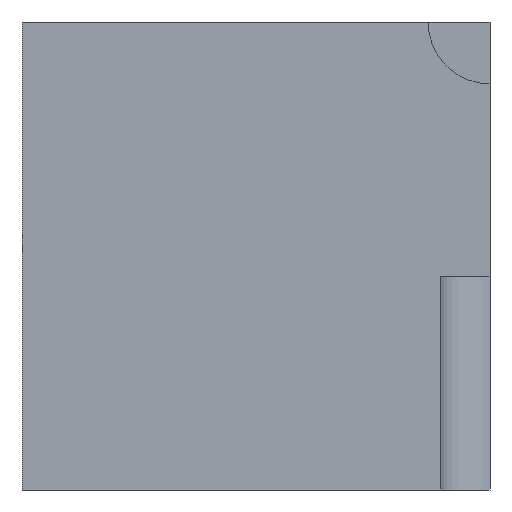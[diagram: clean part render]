
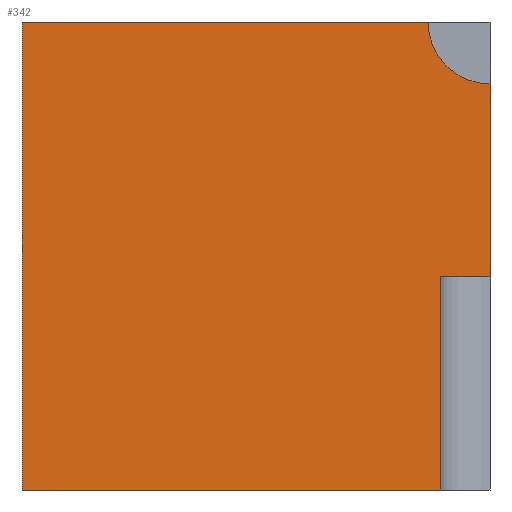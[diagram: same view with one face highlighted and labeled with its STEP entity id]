
A CAD part, left-side view. The second image highlights one B-rep face of the part: STEP entity #342.
In plain terms, the highlighted planar face has unit normal (-1, 0, 0).
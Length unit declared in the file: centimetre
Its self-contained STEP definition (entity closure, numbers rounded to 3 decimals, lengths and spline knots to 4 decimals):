
#18 = VERTEX_POINT ( 'NONE', #673 ) ;
#27 = VERTEX_POINT ( 'NONE', #857 ) ;
#30 = DIRECTION ( 'NONE',  ( 0., 0., 1. ) ) ;
#100 = ORIENTED_EDGE ( 'NONE', *, *, #1108, .T. ) ;
#112 = AXIS2_PLACEMENT_3D ( 'NONE', #860, #1046, #345 ) ;
#141 = CARTESIAN_POINT ( 'NONE',  ( 0., 105.7068, 455.5776 ) ) ;
#173 = DIRECTION ( 'NONE',  ( 0., -1., 0. ) ) ;
#261 = CARTESIAN_POINT ( 'NONE',  ( 0., 1000., 1000. ) ) ;
#287 = LINE ( 'NONE', #789, #466 ) ;
#288 = ORIENTED_EDGE ( 'NONE', *, *, #898, .F. ) ;
#295 = EDGE_CURVE ( 'NONE', #520, #453, #380, .T. ) ;
#296 = EDGE_LOOP ( 'NONE', ( #288, #957, #1223, #100, #407, #516, #439 ) ) ;
#306 = EDGE_CURVE ( 'NONE', #27, #1022, #554, .T. ) ;
#324 = CARTESIAN_POINT ( 'NONE',  ( 0., 1000., 0. ) ) ;
#342 = ADVANCED_FACE ( 'NONE', ( #776 ), #1179, .F. ) ;
#345 = DIRECTION ( 'NONE',  ( 0., 0., 1. ) ) ;
#365 = VECTOR ( 'NONE', #567, 100. ) ;
#370 = EDGE_CURVE ( 'NONE', #18, #1074, #587, .T. ) ;
#380 = LINE ( 'NONE', #787, #1093 ) ;
#385 = DIRECTION ( 'NONE',  ( 0., 0., -1. ) ) ;
#407 = ORIENTED_EDGE ( 'NONE', *, *, #295, .T. ) ;
#439 = ORIENTED_EDGE ( 'NONE', *, *, #306, .F. ) ;
#453 = VERTEX_POINT ( 'NONE', #1321 ) ;
#466 = VECTOR ( 'NONE', #491, 100. ) ;
#491 = DIRECTION ( 'NONE',  ( 0., 0., -1. ) ) ;
#516 = ORIENTED_EDGE ( 'NONE', *, *, #1293, .T. ) ;
#520 = VERTEX_POINT ( 'NONE', #324 ) ;
#533 = DIRECTION ( 'NONE',  ( 0., 0., -1. ) ) ;
#554 = LINE ( 'NONE', #669, #365 ) ;
#567 = DIRECTION ( 'NONE',  ( 0., 1., 0. ) ) ;
#587 = LINE ( 'NONE', #809, #1254 ) ;
#618 = CARTESIAN_POINT ( 'NONE',  ( 0., 1000., 1000. ) ) ;
#656 = LINE ( 'NONE', #141, #975 ) ;
#669 = CARTESIAN_POINT ( 'NONE',  ( 0., 1000., 455.5776 ) ) ;
#673 = CARTESIAN_POINT ( 'NONE',  ( 0., 1000., 1000. ) ) ;
#776 = FACE_OUTER_BOUND ( 'NONE', #296, .T. ) ;
#787 = CARTESIAN_POINT ( 'NONE',  ( 0., 1000., 0. ) ) ;
#789 = CARTESIAN_POINT ( 'NONE',  ( 0., 0., 1000. ) ) ;
#809 = CARTESIAN_POINT ( 'NONE',  ( 0., 1000., 1000. ) ) ;
#850 = VECTOR ( 'NONE', #533, 100. ) ;
#857 = CARTESIAN_POINT ( 'NONE',  ( 0., 0., 455.5776 ) ) ;
#860 = CARTESIAN_POINT ( 'NONE',  ( 0., 0., 1000. ) ) ;
#866 = VERTEX_POINT ( 'NONE', #1208 ) ;
#898 = EDGE_CURVE ( 'NONE', #866, #27, #287, .T. ) ;
#957 = ORIENTED_EDGE ( 'NONE', *, *, #1092, .F. ) ;
#975 = VECTOR ( 'NONE', #30, 100. ) ;
#1022 = VERTEX_POINT ( 'NONE', #1325 ) ;
#1032 = LINE ( 'NONE', #618, #850 ) ;
#1046 = DIRECTION ( 'NONE',  ( -1., 0., 0. ) ) ;
#1061 = CARTESIAN_POINT ( 'NONE',  ( 0., 132.1991, 1000. ) ) ;
#1074 = VERTEX_POINT ( 'NONE', #1061 ) ;
#1080 = DIRECTION ( 'NONE',  ( 1., 0., 0. ) ) ;
#1092 = EDGE_CURVE ( 'NONE', #1074, #866, #1247, .T. ) ;
#1093 = VECTOR ( 'NONE', #1169, 100. ) ;
#1108 = EDGE_CURVE ( 'NONE', #18, #520, #1032, .T. ) ;
#1169 = DIRECTION ( 'NONE',  ( 0., -1., 0. ) ) ;
#1179 = PLANE ( 'NONE',  #1315 ) ;
#1208 = CARTESIAN_POINT ( 'NONE',  ( 0., 0., 867.8009 ) ) ;
#1223 = ORIENTED_EDGE ( 'NONE', *, *, #370, .F. ) ;
#1247 = CIRCLE ( 'NONE', #112, 132.1991 ) ;
#1254 = VECTOR ( 'NONE', #173, 100. ) ;
#1293 = EDGE_CURVE ( 'NONE', #453, #1022, #656, .T. ) ;
#1315 = AXIS2_PLACEMENT_3D ( 'NONE', #261, #1080, #385 ) ;
#1321 = CARTESIAN_POINT ( 'NONE',  ( 0., 105.7068, 0. ) ) ;
#1325 = CARTESIAN_POINT ( 'NONE',  ( 0., 105.7068, 455.5776 ) ) ;
